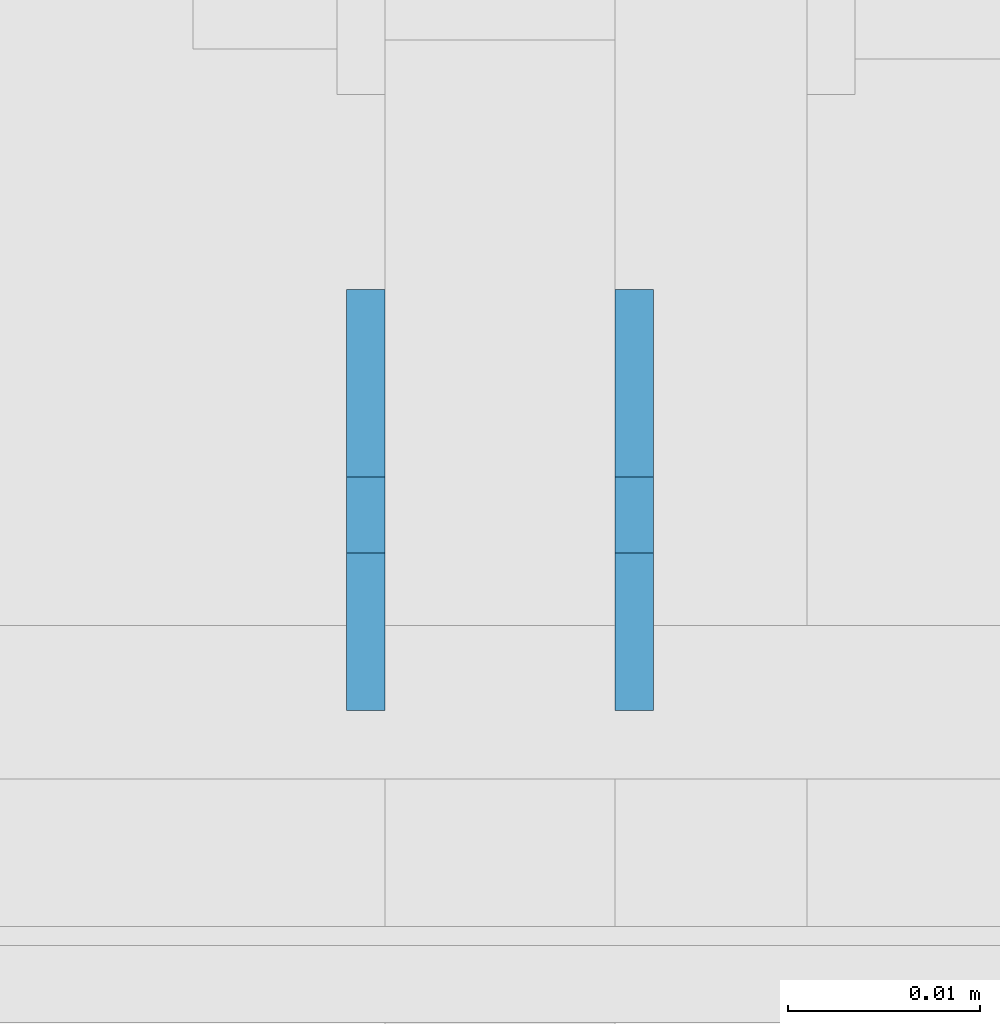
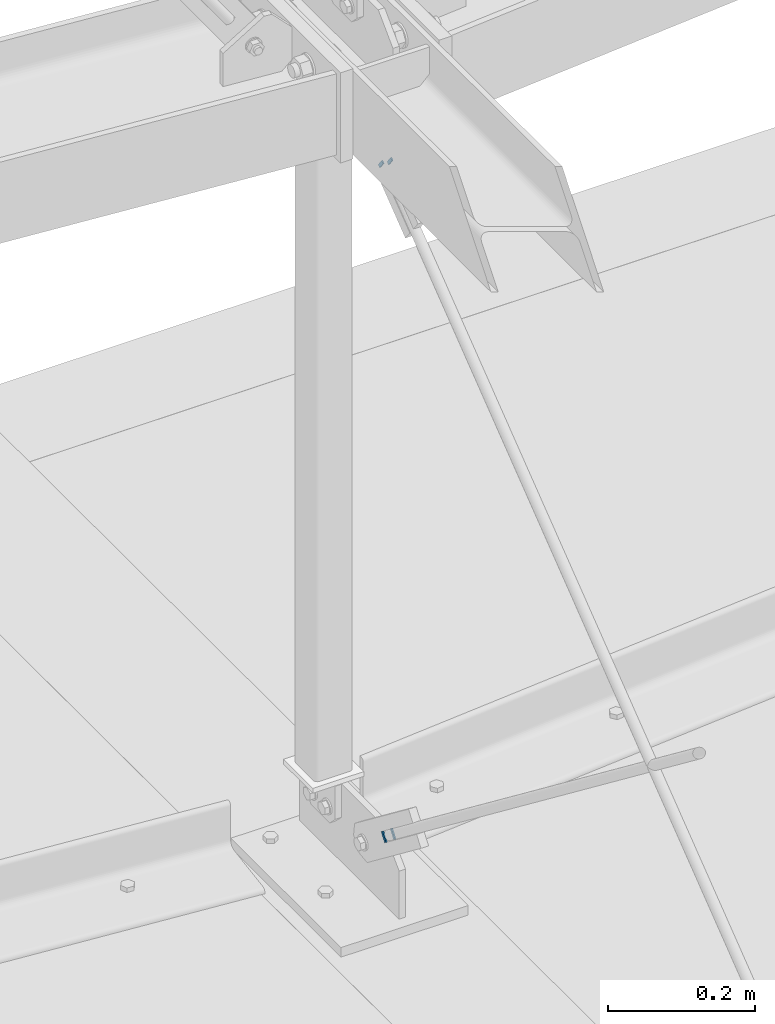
# One storey, part 205 of 271: 4 plates, 2 elements without a shape of their own.
"""IFC2X3 building model written with IfcOpenShell, lengths in millimetres."""

import ifcopenshell
import ifcopenshell.guid

model = None  # the IFC model being written
_history = None  # IfcOwnerHistory: only IFC2X3 demands one
_inside = {}  # id of a spatial element -> (the spatial element, [elements in it])
_under = {}  # id of a project, library or spatial element -> (it, [spatial elements below it])
_declared = {}  # id of a project -> (the project, [libraries it declares])
_typed = {}  # id of a type object -> (the type object, [elements of that type])
_made_of = {}  # id of a material, layer set ... -> (it, [elements and type objects made of it])


def new_model(schema):
    """Start an empty IFC model of exactly this schema.

    Asked for "IFC4X3", IfcOpenShell would pick the latest addendum, in which some entities
    have other attributes; the version numbers below select the first issue.
    IFC2X3 requires an IfcOwnerHistory on every rooted entity: one is made here for all.
    """
    global model, _history
    if schema == "IFC4X3":
        model = ifcopenshell.file(schema_version=(4, 3, 0, 0))
    else:
        model = ifcopenshell.file(schema=schema)
    _inside.clear()
    _under.clear()
    _declared.clear()
    _typed.clear()
    _made_of.clear()
    _history = None
    if model.schema == "IFC2X3":
        org = make("IfcOrganization", Name="unknown")
        user = make(
            "IfcPersonAndOrganization",
            ThePerson=make("IfcPerson", FamilyName="unknown"),
            TheOrganization=org,
        )
        app = make(
            "IfcApplication",
            ApplicationDeveloper=org,
            Version="unknown",
            ApplicationFullName="unknown",
            ApplicationIdentifier="unknown",
        )
        _history = make(
            "IfcOwnerHistory",
            OwningUser=user,
            OwningApplication=app,
            ChangeAction="ADDED",
            CreationDate=0,
        )
    return model


def make(cls, **values):
    """One entity of the class cls with the attributes given. An attribute that is None is left unset."""
    return model.create_entity(
        cls, **{name: value for name, value in values.items() if value is not None}
    )


def rooted(cls, **values):
    """An entity with a GlobalId (a new one), such as an element, a storey or a relation."""
    return make(cls, GlobalId=ifcopenshell.guid.new(), OwnerHistory=_history, **values)


def si_unit(unit_type, name, prefix=None):
    """IfcSIUnit, for example si_unit("LENGTHUNIT", "METRE", prefix="MILLI")."""
    return make("IfcSIUnit", UnitType=unit_type, Prefix=prefix, Name=name)


def assignment(units):
    """IfcUnitAssignment: the units of a project."""
    return None if units is None else make("IfcUnitAssignment", Units=units)


def point(xyz):
    """IfcCartesianPoint."""
    return None if xyz is None else make("IfcCartesianPoint", Coordinates=xyz)


def direction(xyz):
    """IfcDirection."""
    return None if xyz is None else make("IfcDirection", DirectionRatios=xyz)


def frame(location, z_axis=None, x_axis=None):
    """IfcAxis2Placement3D, a coordinate frame: its origin and axes. An axis left out is left unset."""
    return make(
        "IfcAxis2Placement3D",
        Location=point(location),
        Axis=direction(z_axis),
        RefDirection=direction(x_axis),
    )


def origin_with_axes():
    """The frame at (0, 0, 0) with the z axis (0, 0, 1) and the x axis (1, 0, 0) written out."""
    return frame((0.0, 0.0, 0.0), z_axis=(0.0, 0.0, 1.0), x_axis=(1.0, 0.0, 0.0))


def place(relative_to, where):
    """IfcLocalPlacement: puts the frame where relative to a parent placement (None: the world)."""
    return make(
        "IfcLocalPlacement", PlacementRelTo=relative_to, RelativePlacement=where
    )


def context(
    kind, dimensions, precision=None, world=None, true_north=None, identifier=None
):
    """IfcGeometricRepresentationContext, for example the 3D "Model" context."""
    return make(
        "IfcGeometricRepresentationContext",
        ContextIdentifier=identifier,
        ContextType=kind,
        CoordinateSpaceDimension=dimensions,
        Precision=precision,
        WorldCoordinateSystem=world,
        TrueNorth=true_north,
    )


def subcontext(parent, identifier, kind, view, scale=None):
    """IfcGeometricRepresentationSubContext, for example "Body" below "Model"."""
    return make(
        "IfcGeometricRepresentationSubContext",
        ContextIdentifier=identifier,
        ContextType=kind,
        ParentContext=parent,
        TargetScale=scale,
        TargetView=view,
    )


def project(units=None, contexts=None):
    """IfcProject with its units and contexts."""
    return rooted(
        "IfcProject",
        Name="project",
        RepresentationContexts=contexts,
        UnitsInContext=assignment(units),
    )


def spatial(cls, under=None, at=None, **own):
    """A site, building, storey or space (cls), placed at a placement, below another one or the project."""
    s = rooted(cls, ObjectPlacement=at, **own)
    if under is not None:
        _under.setdefault(under.id(), (under, []))[1].append(s)
    return s


def polyline(points):
    """IfcPolyline through the points."""
    return make("IfcPolyline", Points=[point(p) for p in points])


def outline(outer, holes=None, kind="AREA"):
    """IfcArbitraryClosedProfileDef: a profile drawn as a closed curve; with holes, ...WithVoids."""
    if holes is None:
        return make("IfcArbitraryClosedProfileDef", ProfileType=kind, OuterCurve=outer)
    return make(
        "IfcArbitraryProfileDefWithVoids",
        ProfileType=kind,
        OuterCurve=outer,
        InnerCurves=holes,
    )


def extrude(swept, where, along, depth):
    """IfcExtrudedAreaSolid: the profile swept, set in the frame where, extruded along a direction by depth."""
    return make(
        "IfcExtrudedAreaSolid",
        SweptArea=swept,
        Position=where,
        ExtrudedDirection=direction(along),
        Depth=depth,
    )


def shape(context_of_items, identifier, shape_type, items):
    """IfcShapeRepresentation: the items that make up one representation, for example the "Body"."""
    return make(
        "IfcShapeRepresentation",
        ContextOfItems=context_of_items,
        RepresentationIdentifier=identifier,
        RepresentationType=shape_type,
        Items=items,
    )


def material(Name=None, Category=None):
    """IfcMaterial."""
    return make("IfcMaterial", Name=Name, Category=Category)


def made_of(thing, what):
    """Note that an element or type object is made of a material, layer set ...; save() writes the relation."""
    if what is not None:
        _made_of.setdefault(what.id(), (what, []))[1].append(thing)
    return thing


def type_object(cls, material=None, **own):
    """A type object (cls), such as IfcWallType, which elements share."""
    return made_of(rooted(cls, **own), material)


def element(
    cls,
    number,
    at=None,
    inside=None,
    cuts=None,
    type_object=None,
    material=None,
    context=None,
    identifier="Body",
    shape_type=None,
    held_by="IfcProductDefinitionShape",
    body=None,
    shapes=None,
    **own,
):
    """One element of the class cls, such as IfcWall. Its Tag is "e" and its number.

    at: its placement. inside: the storey or other place that contains it. cuts: it is an
    opening in that element (IfcRelVoidsElement). A single representation is given by context,
    identifier, shape_type and body (its items); several are given by shapes. held_by: the class
    of the entity that holds the representations. save() writes the other relations.
    """
    e = rooted(cls, Tag="e%d" % number, ObjectPlacement=at, **own)
    if body is not None:
        shapes = [shape(context, identifier, shape_type, body)]
    if shapes is not None:
        e.Representation = make(held_by, Representations=shapes)
    if inside is not None:
        _inside.setdefault(inside.id(), (inside, []))[1].append(e)
    if cuts is not None:
        rooted(
            "IfcRelVoidsElement", RelatingBuildingElement=cuts, RelatedOpeningElement=e
        )
    if type_object is not None:
        _typed.setdefault(type_object.id(), (type_object, []))[1].append(e)
    return made_of(e, material)


def aggregate(whole, parts):
    """IfcRelAggregates: a whole, such as a stair, and the parts it consists of."""
    return rooted("IfcRelAggregates", RelatingObject=whole, RelatedObjects=parts)


def save(model, path):
    """Write the relations noted so far, then the file.

    IfcRelAggregates (storeys below a building ...), IfcRelContainedInSpatialStructure (elements
    in a storey), IfcRelDefinesByType, IfcRelAssociatesMaterial and IfcRelDeclares: one each for
    every whole, place, type object, material and project.
    """
    for whole, parts in _under.values():
        aggregate(whole, parts)
    for where, things in _inside.values():
        rooted(
            "IfcRelContainedInSpatialStructure",
            RelatedElements=things,
            RelatingStructure=where,
        )
    for kind, things in _typed.values():
        rooted("IfcRelDefinesByType", RelatedObjects=things, RelatingType=kind)
    for what, things in _made_of.values():
        rooted("IfcRelAssociatesMaterial", RelatedObjects=things, RelatingMaterial=what)
    for by, libraries in _declared.values():
        rooted("IfcRelDeclares", RelatingContext=by, RelatedDefinitions=libraries)
    model.write(path)


model = new_model("IFC2X3")

# Units and contexts
model_context = context("Model", 3, precision=1e-05, world=origin_with_axes())
body_context = subcontext(model_context, "Body", "Model", "MODEL_VIEW")
ifc_project = project(units=[si_unit("LENGTHUNIT", "METRE", prefix="MILLI"), si_unit("AREAUNIT", "SQUARE_METRE"), si_unit("VOLUMEUNIT", "CUBIC_METRE"), si_unit("MASSUNIT", "GRAM", prefix="KILO"), si_unit("TIMEUNIT", "SECOND"), si_unit("PLANEANGLEUNIT", "RADIAN"), si_unit("SOLIDANGLEUNIT", "STERADIAN"), si_unit("THERMODYNAMICTEMPERATUREUNIT", "DEGREE_CELSIUS"), si_unit("LUMINOUSINTENSITYUNIT", "LUMEN")], contexts=[model_context])

# Site, building, storey
site_placement = place(None, origin_with_axes())
site = spatial("IfcSite", under=ifc_project, at=site_placement, Name="Undefined", CompositionType="ELEMENT")
building_placement = place(site_placement, origin_with_axes())
building = spatial("IfcBuilding", under=site, at=building_placement, Name="Undefined", CompositionType="ELEMENT")
storey_placement = place(building_placement, origin_with_axes())
storey = spatial("IfcBuildingStorey", under=building, at=storey_placement, Name="Undefined", CompositionType="ELEMENT", Elevation=0.0)

# Assembly, plates
assembly_1_placement = place(storey_placement, origin_with_axes())
assembly_1 = element("IfcElementAssembly", 1, at=assembly_1_placement, inside=storey, AssemblyPlace="NOTDEFINED", PredefinedType="RIGID_FRAME")
ifc_material = material(Name="STEEL/S355JR")
plate_type = type_object("IfcPlateType", Name="BL5*2", PredefinedType="NOTDEFINED")
plate_1_placement = place(assembly_1_placement, frame((6341.37568798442, 3581.14184400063, 124.060765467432), z_axis=(0.0, -0.793123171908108, 0.609061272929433), x_axis=(0.0, 0.609061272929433, 0.793123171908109)))
plate_1 = element("IfcPlate", 2, at=plate_1_placement, type_object=plate_type, material=ifc_material, Name="BLACHA", ObjectType="BL5*2", context=body_context, shape_type="SweptSolid", body=[
    extrude(outline(polyline([(0.0, 0.0), (15.9999980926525, -7.67386154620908e-13), (15.9999980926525, 1.99999964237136), (0.0, 1.99999964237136), (0.0, 0.0)])), frame((0.0, 0.0, -2.5), z_axis=(0.0, 0.0, 1.0), x_axis=(1.0, 0.0, 0.0)), (0.0, 0.0, 1.0), 5.0),
])
plate_2_placement = place(assembly_1_placement, frame((6355.37568767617, 3581.14184400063, 124.060765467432), z_axis=(0.0, -0.793123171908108, 0.609061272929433), x_axis=(0.0, 0.609061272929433, 0.793123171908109)))
plate_2 = element("IfcPlate", 3, at=plate_2_placement, type_object=plate_type, material=ifc_material, Name="BLACHA", ObjectType="BL5*2", context=body_context, shape_type="SweptSolid", body=[
    extrude(outline(polyline([(0.0, 0.0), (15.9999980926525, -7.67386154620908e-13), (15.9999980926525, 1.99999964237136), (0.0, 1.99999964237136), (0.0, 0.0)])), frame((0.0, 0.0, -2.5), z_axis=(0.0, 0.0, 1.0), x_axis=(1.0, 0.0, 0.0)), (0.0, 0.0, 1.0), 5.0),
])
aggregate(assembly_1, [plate_1, plate_2])

assembly_2_placement = place(storey_placement, origin_with_axes())
assembly_2 = element("IfcElementAssembly", 4, at=assembly_2_placement, inside=storey, AssemblyPlace="NOTDEFINED", PredefinedType="RIGID_FRAME")
plate_3_placement = place(assembly_2_placement, frame((6341.37568798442, 3599.1147820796, 1237.62928112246), z_axis=(0.0, -0.791609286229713, -0.611027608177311), x_axis=(0.0, -0.611027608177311, 0.791609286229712)))
plate_3 = element("IfcPlate", 5, at=plate_3_placement, type_object=plate_type, material=ifc_material, Name="BLACHA", ObjectType="BL5*2", context=body_context, shape_type="SweptSolid", body=[
    extrude(outline(polyline([(0.0, 0.0), (15.9999980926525, -7.67386154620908e-13), (15.9999980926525, 1.99999964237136), (0.0, 1.99999964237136), (0.0, 0.0)])), frame((0.0, 0.0, -2.5), z_axis=(0.0, 0.0, 1.0), x_axis=(1.0, 0.0, 0.0)), (0.0, 0.0, 1.0), 5.0),
])
plate_4_placement = place(assembly_2_placement, frame((6355.37568767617, 3599.1147820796, 1237.62928112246), z_axis=(0.0, -0.791609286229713, -0.611027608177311), x_axis=(0.0, -0.611027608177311, 0.791609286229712)))
plate_4 = element("IfcPlate", 6, at=plate_4_placement, type_object=plate_type, material=ifc_material, Name="BLACHA", ObjectType="BL5*2", context=body_context, shape_type="SweptSolid", body=[
    extrude(outline(polyline([(0.0, 0.0), (15.9999980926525, -7.67386154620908e-13), (15.9999980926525, 1.99999964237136), (0.0, 1.99999964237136), (0.0, 0.0)])), frame((0.0, 0.0, -2.5), z_axis=(0.0, 0.0, 1.0), x_axis=(1.0, 0.0, 0.0)), (0.0, 0.0, 1.0), 5.0),
])
aggregate(assembly_2, [plate_3, plate_4])

save(model, "model.ifc")
